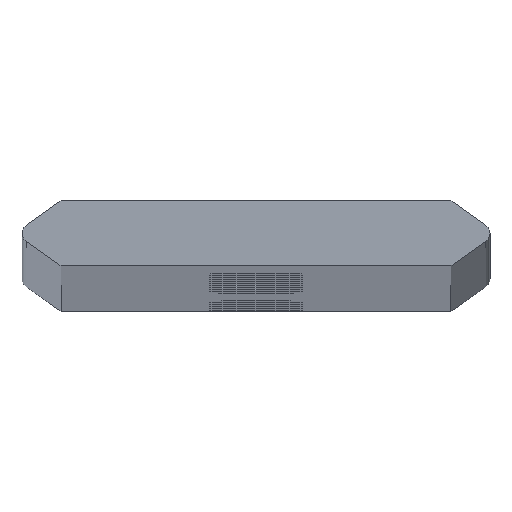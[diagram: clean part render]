
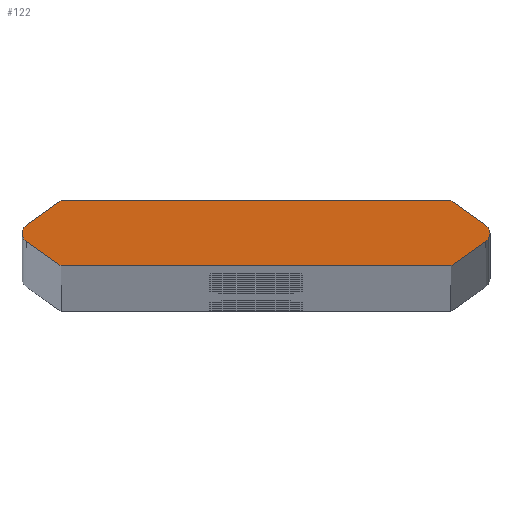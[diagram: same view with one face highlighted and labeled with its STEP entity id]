
A CAD part, top view. The second image highlights one B-rep face of the part: STEP entity #122.
In plain terms, the highlighted planar face has unit normal (0, 0, 1).
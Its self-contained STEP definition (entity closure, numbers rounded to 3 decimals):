
#122=ADVANCED_FACE('',(#226),#227,.T.);
#226=FACE_OUTER_BOUND('',#382,.T.);
#227=PLANE('',#383);
#382=EDGE_LOOP('',(#773,#774,#775,#776,#777,#778,#779,#780,#781,#782));
#383=AXIS2_PLACEMENT_3D('',#783,#784,#785);
#773=ORIENTED_EDGE('',*,*,#941,.T.);
#774=ORIENTED_EDGE('',*,*,#1078,.T.);
#775=ORIENTED_EDGE('',*,*,#1079,.F.);
#776=ORIENTED_EDGE('',*,*,#1080,.F.);
#777=ORIENTED_EDGE('',*,*,#1081,.F.);
#778=ORIENTED_EDGE('',*,*,#937,.T.);
#779=ORIENTED_EDGE('',*,*,#1082,.T.);
#780=ORIENTED_EDGE('',*,*,#1083,.F.);
#781=ORIENTED_EDGE('',*,*,#1084,.F.);
#782=ORIENTED_EDGE('',*,*,#1085,.F.);
#783=CARTESIAN_POINT('',(0.,0.,1976.0));
#784=DIRECTION('',(0.0,0.0,1.0));
#785=DIRECTION('',(1.0,0.0,0.0));
#937=EDGE_CURVE('',#1101,#1098,#1102,.T.);
#941=EDGE_CURVE('',#1109,#1106,#1110,.T.);
#1078=EDGE_CURVE('',#1106,#1336,#1338,.T.);
#1079=EDGE_CURVE('',#1339,#1336,#1340,.T.);
#1080=EDGE_CURVE('',#1341,#1339,#1342,.T.);
#1081=EDGE_CURVE('',#1101,#1341,#1343,.T.);
#1082=EDGE_CURVE('',#1098,#1344,#1345,.T.);
#1083=EDGE_CURVE('',#1346,#1344,#1347,.T.);
#1084=EDGE_CURVE('',#1348,#1346,#1349,.T.);
#1085=EDGE_CURVE('',#1109,#1348,#1350,.T.);
#1098=VERTEX_POINT('',#1368);
#1101=VERTEX_POINT('',#1372);
#1102=CIRCLE('',#1373,0.76);
#1106=VERTEX_POINT('',#1378);
#1109=VERTEX_POINT('',#1382);
#1110=CIRCLE('',#1383,0.76);
#1336=VERTEX_POINT('',#1654);
#1338=CIRCLE('',#1657,0.76);
#1339=VERTEX_POINT('',#1658);
#1340=LINE('',#1659,#1660);
#1341=VERTEX_POINT('',#1661);
#1342=LINE('',#1662,#1663);
#1343=LINE('',#1664,#1665);
#1344=VERTEX_POINT('',#1666);
#1345=CIRCLE('',#1667,0.76);
#1346=VERTEX_POINT('',#1668);
#1347=LINE('',#1669,#1670);
#1348=VERTEX_POINT('',#1671);
#1349=LINE('',#1672,#1673);
#1350=LINE('',#1674,#1675);
#1368=CARTESIAN_POINT('',(17.725,0.,1976.0));
#1372=CARTESIAN_POINT('',(17.404,-0.62,1976.0));
#1373=AXIS2_PLACEMENT_3D('',#1705,#1706,#1707);
#1378=CARTESIAN_POINT('',(-17.725,0.,1976.0));
#1382=CARTESIAN_POINT('',(-17.404,0.62,1976.0));
#1383=AXIS2_PLACEMENT_3D('',#1713,#1714,#1715);
#1654=CARTESIAN_POINT('',(-17.404,-0.62,1976.0));
#1657=AXIS2_PLACEMENT_3D('',#2032,#2033,#2034);
#1658=CARTESIAN_POINT('',(-14.77,-2.465,1976.0));
#1659=CARTESIAN_POINT('',(-18.29,0.,1976.0));
#1660=VECTOR('',#2035,1.0);
#1661=CARTESIAN_POINT('',(14.77,-2.465,1976.0));
#1662=CARTESIAN_POINT('',(14.77,-2.465,1976.0));
#1663=VECTOR('',#2036,1.0);
#1664=CARTESIAN_POINT('',(18.29,0.0,1976.0));
#1665=VECTOR('',#2037,1.0);
#1666=CARTESIAN_POINT('',(17.404,0.62,1976.0));
#1667=AXIS2_PLACEMENT_3D('',#2038,#2039,#2040);
#1668=CARTESIAN_POINT('',(14.77,2.465,1976.0));
#1669=CARTESIAN_POINT('',(18.29,0.0,1976.0));
#1670=VECTOR('',#2041,1.0);
#1671=CARTESIAN_POINT('',(-14.77,2.465,1976.0));
#1672=CARTESIAN_POINT('',(-14.77,2.465,1976.0));
#1673=VECTOR('',#2042,1.0);
#1674=CARTESIAN_POINT('',(-18.29,0.,1976.0));
#1675=VECTOR('',#2043,1.0);
#1705=CARTESIAN_POINT('',(16.965,0.0,1976.0));
#1706=DIRECTION('',(0.0,0.0,1.0));
#1707=DIRECTION('',(1.0,0.0,0.0));
#1713=CARTESIAN_POINT('',(-16.965,0.,1976.0));
#1714=DIRECTION('',(0.0,0.0,1.0));
#1715=DIRECTION('',(-1.0,0.,0.0));
#2032=CARTESIAN_POINT('',(-16.965,0.,1976.0));
#2033=DIRECTION('',(0.0,0.0,1.0));
#2034=DIRECTION('',(-1.0,0.,0.0));
#2035=DIRECTION('',(-0.819,0.574,0.0));
#2036=DIRECTION('',(-1.0,0.0,0.0));
#2037=DIRECTION('',(-0.819,-0.574,0.0));
#2038=CARTESIAN_POINT('',(16.965,0.0,1976.0));
#2039=DIRECTION('',(0.0,0.0,1.0));
#2040=DIRECTION('',(1.0,0.0,0.0));
#2041=DIRECTION('',(0.819,-0.574,0.0));
#2042=DIRECTION('',(1.0,0.,0.0));
#2043=DIRECTION('',(0.819,0.574,0.0));
